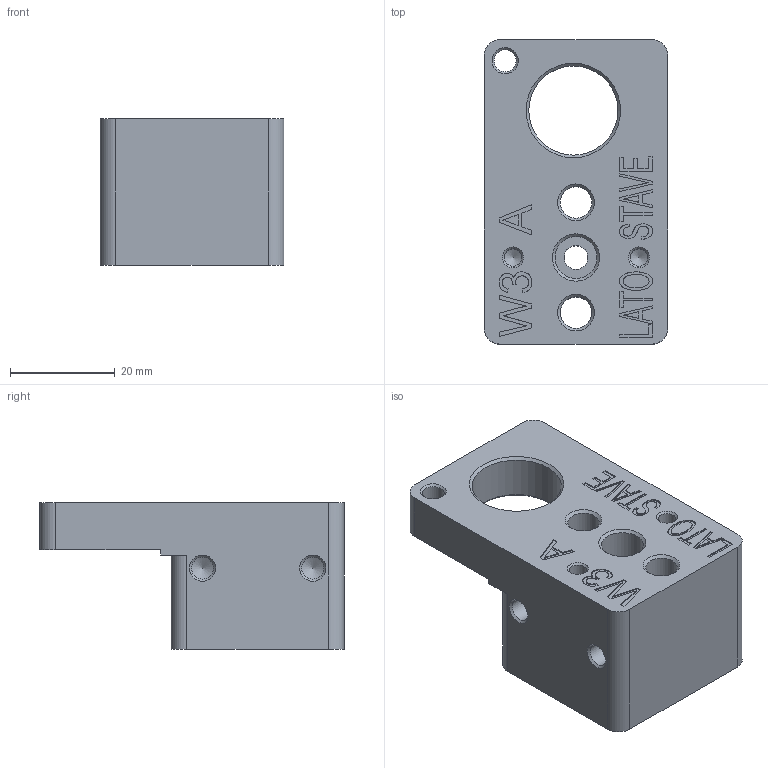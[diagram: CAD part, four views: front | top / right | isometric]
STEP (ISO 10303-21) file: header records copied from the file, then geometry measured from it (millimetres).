
FILE_DESCRIPTION(/* description */ (''),/* implementation_level */ '2;1');
FILE_NAME(/* name */ 'WHEELS-INSERT.18.stp',/* time_stamp */ '2018-10-12T17:25:00+02:00',/* author */ (''),/* organization */ (''),/* preprocessor_version */ 'ST-DEVELOPER v16.7',/* originating_system */ 'SIEMENS PLM Software NX 12.0',/* authorisation */ '');
FILE_SCHEMA (('AP203_CONFIGURATION_CONTROLLED_3D_DESIGN_OF_MECHANICAL_PARTS_AND_ASSEMBLIES_MIM_LF { 1 0 10303 403 2 1 2}'));
Length unit declared in the file: millimetre
Products named in the file (1): turc1934B35Eh6by
Bounding box: 35 x 58 x 28 mm (x, y, z)
Volume: 34982.8 mm3; surface area: 10304.1 mm2
Topology: 1 solids, 1 shells, 165 faces, 437 edges, 291 vertices
Faces by surface type: plane 105, extrusion 26, cone 18, cylinder 16
Full cylindrical faces by diameter (mm): 3.3 x2, 4.2 x3, 4.5 x1, 6 x2, 8 x1, 17 x1
Entity records: 5730 total; most frequent: CARTESIAN_POINT 2032, ORIENTED_EDGE 776, DIRECTION 552, EDGE_CURVE 388, VERTEX_POINT 274, B_SPLINE_CURVE_WITH_KNOTS 234, EDGE_LOOP 220, AXIS2_PLACEMENT_3D 196
